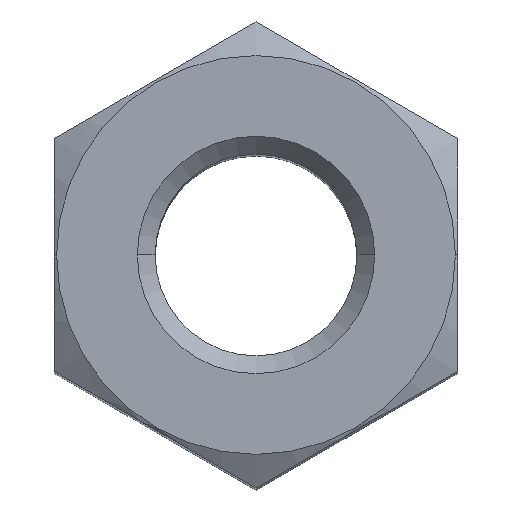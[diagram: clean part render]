
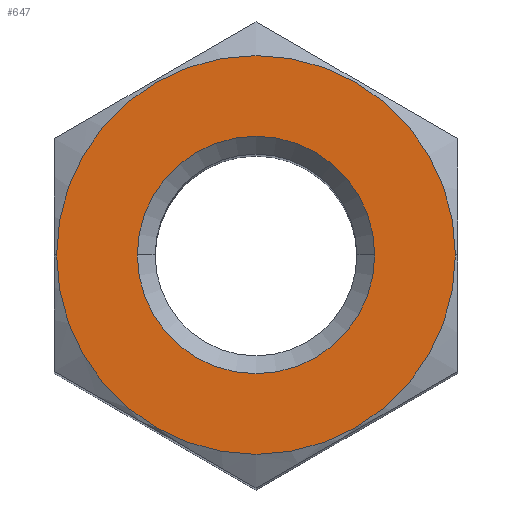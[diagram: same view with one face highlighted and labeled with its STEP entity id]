
A CAD part, top view. The second image highlights one B-rep face of the part: STEP entity #647.
In plain terms, the highlighted planar face has unit normal (0, 0, 1).
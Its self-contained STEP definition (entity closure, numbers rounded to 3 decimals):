
#22 = AXIS2_PLACEMENT_3D ( 'NONE', #700, #78, #156 ) ;
#36 = CIRCLE ( 'NONE', #401, 8.4 ) ;
#78 = DIRECTION ( 'NONE',  ( 0., 0., 1. ) ) ;
#122 = CARTESIAN_POINT ( 'NONE',  ( -5., 0., 0. ) ) ;
#124 = CIRCLE ( 'NONE', #354, 5. ) ;
#131 = DIRECTION ( 'NONE',  ( 1., 0., 0. ) ) ;
#156 = DIRECTION ( 'NONE',  ( 1., 0., 0. ) ) ;
#208 = CIRCLE ( 'NONE', #22, 8.4 ) ;
#256 = DIRECTION ( 'NONE',  ( 0., 0., -1. ) ) ;
#263 = CARTESIAN_POINT ( 'NONE',  ( 0., 0., 0. ) ) ;
#286 = CARTESIAN_POINT ( 'NONE',  ( -8.4, 0., 0. ) ) ;
#295 = FACE_OUTER_BOUND ( 'NONE', #554, .T. ) ;
#297 = VERTEX_POINT ( 'NONE', #122 ) ;
#306 = CARTESIAN_POINT ( 'NONE',  ( 0., 0., 0. ) ) ;
#331 = DIRECTION ( 'NONE',  ( 1., 0., 0. ) ) ;
#348 = EDGE_CURVE ( 'NONE', #585, #442, #36, .T. ) ;
#350 = ORIENTED_EDGE ( 'NONE', *, *, #433, .T. ) ;
#354 = AXIS2_PLACEMENT_3D ( 'NONE', #597, #256, #131 ) ;
#359 = DIRECTION ( 'NONE',  ( 1., 0., 0. ) ) ;
#361 = DIRECTION ( 'NONE',  ( 0., 0., -1. ) ) ;
#362 = DIRECTION ( 'NONE',  ( 1., 0., 0. ) ) ;
#400 = DIRECTION ( 'NONE',  ( 0., 0., 1. ) ) ;
#401 = AXIS2_PLACEMENT_3D ( 'NONE', #263, #639, #331 ) ;
#424 = CARTESIAN_POINT ( 'NONE',  ( 0., 0., 0. ) ) ;
#433 = EDGE_CURVE ( 'NONE', #442, #585, #208, .T. ) ;
#434 = FACE_BOUND ( 'NONE', #514, .T. ) ;
#442 = VERTEX_POINT ( 'NONE', #286 ) ;
#446 = ORIENTED_EDGE ( 'NONE', *, *, #577, .T. ) ;
#475 = ORIENTED_EDGE ( 'NONE', *, *, #348, .T. ) ;
#511 = CARTESIAN_POINT ( 'NONE',  ( 5., 0., 0. ) ) ;
#514 = EDGE_LOOP ( 'NONE', ( #619, #446 ) ) ;
#521 = VERTEX_POINT ( 'NONE', #511 ) ;
#524 = PLANE ( 'NONE',  #608 ) ;
#554 = EDGE_LOOP ( 'NONE', ( #350, #475 ) ) ;
#556 = CIRCLE ( 'NONE', #633, 5. ) ;
#577 = EDGE_CURVE ( 'NONE', #297, #521, #124, .T. ) ;
#585 = VERTEX_POINT ( 'NONE', #664 ) ;
#597 = CARTESIAN_POINT ( 'NONE',  ( 0., 0., 0. ) ) ;
#608 = AXIS2_PLACEMENT_3D ( 'NONE', #424, #400, #362 ) ;
#619 = ORIENTED_EDGE ( 'NONE', *, *, #670, .T. ) ;
#633 = AXIS2_PLACEMENT_3D ( 'NONE', #306, #361, #359 ) ;
#639 = DIRECTION ( 'NONE',  ( 0., 0., 1. ) ) ;
#647 = ADVANCED_FACE ( 'NONE', ( #434, #295 ), #524, .T. ) ;
#664 = CARTESIAN_POINT ( 'NONE',  ( 8.4, 0., 0. ) ) ;
#670 = EDGE_CURVE ( 'NONE', #521, #297, #556, .T. ) ;
#700 = CARTESIAN_POINT ( 'NONE',  ( 0., 0., 0. ) ) ;
